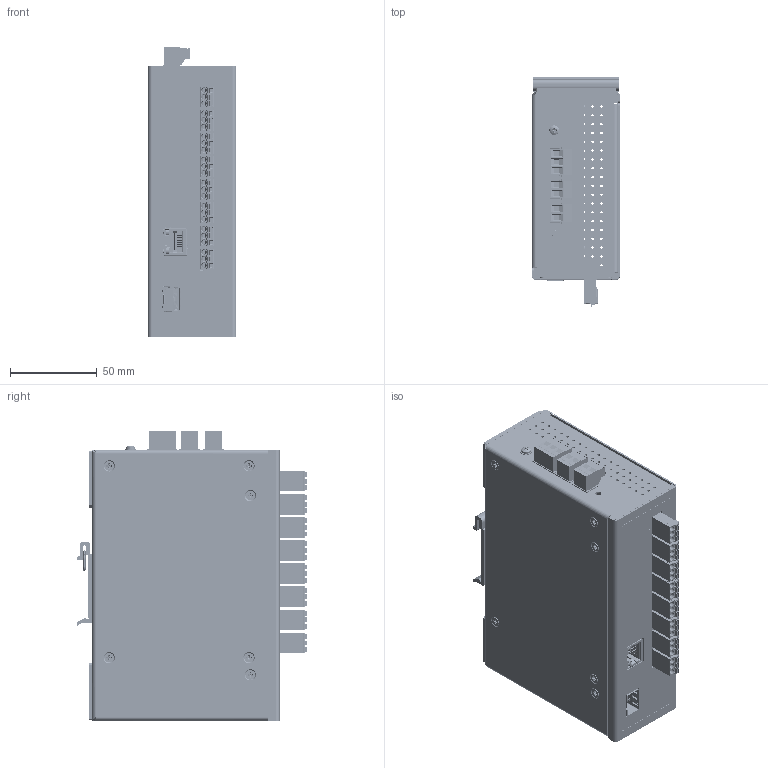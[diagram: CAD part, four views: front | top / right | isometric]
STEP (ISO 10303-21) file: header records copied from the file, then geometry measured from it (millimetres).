
FILE_DESCRIPTION(/* description */ ('STEP AP242','CAx-IF Rec.Pracs.---Representation and Presentation of Product Manufacturing Information (PMI)---4.0---2014-10-13','CAx-IF Rec.Pracs.---3D Tessellated Geometry---0.4---2014-09-14','2;1'),/* implementation_level */ '2;1');
FILE_NAME(/* name */ '67d9b48b3cfe657dc0270787',/* time_stamp */ '2025-03-18T17:59:50Z',/* author */ (''),/* organization */ (''),/* preprocessor_version */ 'ST-DEVELOPER v20',/* originating_system */ 'ONSHAPE BY PTC INC, 1.195',/* authorisation */ ' ');
FILE_SCHEMA (('AP242_MANAGED_MODEL_BASED_3D_ENGINEERING_MIM_LF { 1 0 10303 442 1 1 4 }'));
Products named in the file (54): SD-004; PH Pan head screw M3x0.50 x 3; 98952A007_Aluminum Male-Female Threaded Hex Standoff; PH Countersunk flat head screw M3x0.5 x 4; Pan head machine screw #4-40 x 0.375; 95947A054_Aluminum Female Threaded Hex Standoff; Front Label; PCB-029 - Rev C - UIO - Smart Series Mother Board <1>; C-796634-3; Part 1; C-796634-2; P4-64P-SHIELD; 10135584-644X0XLF; CUI_DEVICES_TBP01R1-508-02GR; CUI_DEVICES_TBP01R1-508-03GR; JXD0-0019NL_3D; Reset Switch; User Library-U77A1118X00X; PCB-011 - UIO - Daughter Board - CC Output <1>; Hole Pad; fmc_1.5-3-st-3.81; mc_1.5-3-g-3.81; R4-64P-SHIELD; PCB Board; 10135583-644X0XXX_R4-64PIN; 91757A101_18-8 Stainless Steel Internal-Tooth Lock Washer; AD-167 - Rev A - UIO Smart Series, 8 Channel CC Output Housing <1>; PH Countersunk flat head screw M3x0.5 x 6; H-180 - Rev A - UIO Smart Series, Front Housing, 8 Channel CC Output 
<1>; PEM CLS-M3-1  ; Wall Mount Ear; Assembly 1 <1>; DIN; Part 2; H-178 - Rev A - UIO, Smart Series, Back Housing <1>; 94674A485_Flush-Mount Press-Fit Nut for Sheet Metal; H-178
Assembly tree (125 placements, depth 4):
  SD-004
    PH Pan head screw M3x0.50 x 3  x4
    98952A007_Aluminum Male-Female Threaded Hex Standoff  x4
    PH Countersunk flat head screw M3x0.5 x 4  x4
    Pan head machine screw #4-40 x 0.375
    95947A054_Aluminum Female Threaded Hex Standoff  x4
    Front Label
    PCB-029 - Rev C - UIO - Smart Series Mother Board <1>
      C-796634-3
      Part 1  x4
      C-796634-2  x2
      Part 1  x3
      P4-64P-SHIELD  x2
      10135584-644X0XLF  x2
      CUI_DEVICES_TBP01R1-508-02GR  x2
      CUI_DEVICES_TBP01R1-508-03GR
      Part 1
      JXD0-0019NL_3D
      JXD0-0019NL_3D
      JXD0-0019NL_3D
      JXD0-0019NL_3D
      Reset Switch
      User Library-U77A1118X00X
      User Library-U77A1118X00X
      User Library-U77A1118X00X
      User Library-U77A1118X00X
      User Library-U77A1118X00X
      User Library-U77A1118X00X
      User Library-U77A1118X00X
    PCB-011 - UIO - Daughter Board - CC Output <1>
      Hole Pad
      fmc_1.5-3-st-3.81  x8
      Hole Pad
      Part 1  x8
      mc_1.5-3-g-3.81  x8
      Hole Pad
      R4-64P-SHIELD
      R4-64P-SHIELD
      PCB Board
      Hole Pad
      10135583-644X0XXX_R4-64PIN
      10135583-644X0XXX_R4-64PIN
    91757A101_18-8 Stainless Steel Internal-Tooth Lock Washer
    AD-167 - Rev A - UIO Smart Series, 8 Channel CC Output Housing <1>
      PH Countersunk flat head screw M3x0.5 x 6  x7
      PH Countersunk flat head screw M3x0.5 x 4  x8
      H-180 - Rev A - UIO Smart Series, Front Housing, 8 Channel CC Output 
<1>
        Part 1
        PEM CLS-M3-1    x2
      Wall Mount Ear  x2
      Assembly 1 <1>
        DIN
        Part 2
      H-178 - Rev A - UIO, Smart Series, Back Housing <1>
        PEM CLS-M3-1    x13
        94674A485_Flush-Mount Press-Fit Nut for Sheet Metal
        H-178
Bounding box: 50.8 x 132.54 x 166.86 mm (x, y, z)
Volume: 156871.8 mm3; surface area: 270498.4 mm2
Topology: 112 solids, 141 shells, 17992 faces, 49693 edges, 32126 vertices
Faces by surface type: plane 13341, cylinder 3603, cone 480, bspline 300, torus 195, sphere 73
Full cylindrical faces by diameter (mm): 0.457 x16, 0.7 x4, 0.94 x4, 1.1 x4, 1.2 x52, 1.25 x24, 1.27 x6, 1.587 x190, 1.6 x32, 2 x14, 2.345 x4, 2.459 x15, 2.5 x7, 2.845 x1, 3 x47, 3.175 x4, 3.2 x4, 3.4 x3, 3.505 x1, 3.569 x1, 4 x11, 4.039 x1, 4.093 x1, 4.2 x15, 4.216 x4, 4.22 x15, 5.5 x19, 5.563 x1, 5.6 x4, 6.35 x15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
Entity records: 327877 total; most frequent: CARTESIAN_POINT 70944, ORIENTED_EDGE 53843, DIRECTION 48855, EDGE_CURVE 26968, LINE 20547, VECTOR 20547, VERTEX_POINT 17495, AXIS2_PLACEMENT_3D 14154
